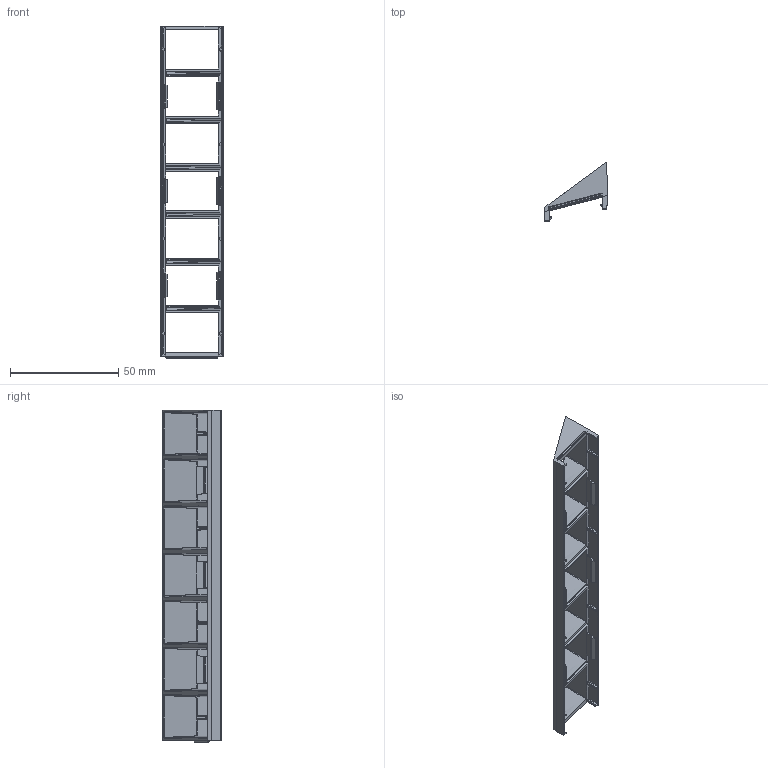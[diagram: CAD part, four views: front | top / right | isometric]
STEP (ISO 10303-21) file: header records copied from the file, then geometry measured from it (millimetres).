
FILE_DESCRIPTION (( 'STEP AP214' ), '1' );
FILE_NAME ('LVR-000008-00 REV C.STEP', '2022-06-13T13:48:46', ( '' ), ( '' ), 'SwSTEP 2.0', 'SolidWorks 2020', '' );
FILE_SCHEMA (( 'AUTOMOTIVE_DESIGN' ));
Length unit declared in the file: inch
Products named in the file (1): LVR-000008-00 REV C
Bounding box: 28.96 x 26.84 x 153.29 mm (x, y, z)
Volume: 9026.6 mm3; surface area: 16237.3 mm2
Topology: 1 solids, 1 shells, 878 faces, 2112 edges, 1207 vertices
Faces by surface type: cylinder 355, bspline 284, plane 181, sphere 58
Entity records: 29635 total; most frequent: CARTESIAN_POINT 12119, ORIENTED_EDGE 4176, DIRECTION 3119, EDGE_CURVE 2088, VERTEX_POINT 1207, AXIS2_PLACEMENT_3D 1146, EDGE_LOOP 887, ADVANCED_FACE 878
